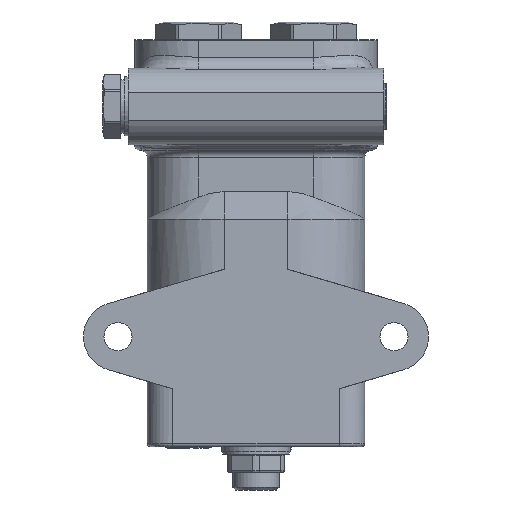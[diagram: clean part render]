
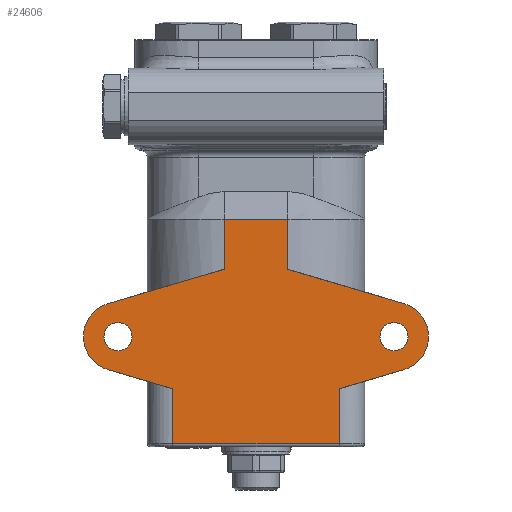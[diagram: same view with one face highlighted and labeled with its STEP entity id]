
A CAD part, front view. The second image highlights one B-rep face of the part: STEP entity #24606.
In plain terms, the highlighted planar face has unit normal (0, -1, 0).
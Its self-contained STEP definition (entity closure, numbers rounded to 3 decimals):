
#4986=CARTESIAN_POINT('',(102.0,0.,32.));
#4987=VERTEX_POINT('',#4986);
#4988=CARTESIAN_POINT('',(96.5,0.0,32.));
#4989=DIRECTION('',(0.0,1.0,0.0));
#4990=DIRECTION('',(-1.0,0.0,0.0));
#4991=AXIS2_PLACEMENT_3D('',#4988,#4989,#4990);
#4992=CIRCLE('',#4991,5.5);
#4993=EDGE_CURVE('',#4987,#4987,#4992,.T.);
#5054=CARTESIAN_POINT('',(-6.,0.,32.));
#5055=VERTEX_POINT('',#5054);
#5056=CARTESIAN_POINT('',(-11.5,0.0,32.));
#5057=DIRECTION('',(0.0,1.0,0.0));
#5058=DIRECTION('',(-1.0,0.0,0.0));
#5059=AXIS2_PLACEMENT_3D('',#5056,#5057,#5058);
#5060=CIRCLE('',#5059,5.5);
#5061=EDGE_CURVE('',#5055,#5055,#5060,.T.);
#5131=CARTESIAN_POINT('',(-15.319,0.,44.949));
#5132=VERTEX_POINT('',#5131);
#5133=CARTESIAN_POINT('',(30.,0.,58.314));
#5134=VERTEX_POINT('',#5133);
#5135=CARTESIAN_POINT('',(-15.319,0.,44.949));
#5136=DIRECTION('',(0.959,0.,0.283));
#5137=VECTOR('',#5136,47.248);
#5138=LINE('',#5135,#5137);
#5139=EDGE_CURVE('',#5132,#5134,#5138,.T.);
#5172=CARTESIAN_POINT('',(55.,0.,58.314));
#5173=VERTEX_POINT('',#5172);
#5174=CARTESIAN_POINT('',(100.319,0.,44.949));
#5175=VERTEX_POINT('',#5174);
#5176=CARTESIAN_POINT('',(55.,0.,58.314));
#5177=DIRECTION('',(0.959,0.,-0.283));
#5178=VECTOR('',#5177,47.248);
#5179=LINE('',#5176,#5178);
#5180=EDGE_CURVE('',#5173,#5175,#5179,.T.);
#5213=CARTESIAN_POINT('',(100.319,0.,19.051));
#5214=VERTEX_POINT('',#5213);
#5215=CARTESIAN_POINT('',(96.5,0.,32.));
#5216=DIRECTION('',(0.,1.0,0.));
#5217=DIRECTION('',(-0.283,0.,0.959));
#5218=AXIS2_PLACEMENT_3D('',#5215,#5216,#5217);
#5219=CIRCLE('',#5218,13.5);
#5220=EDGE_CURVE('',#5175,#5214,#5219,.T.);
#5423=CARTESIAN_POINT('',(30.05,0.,78.0));
#5424=VERTEX_POINT('',#5423);
#5438=CARTESIAN_POINT('',(54.95,0.,78.0));
#5439=VERTEX_POINT('',#5438);
#5440=CARTESIAN_POINT('',(54.95,0.,78.0));
#5441=DIRECTION('',(-1.0,0.0,0.0));
#5442=VECTOR('',#5441,24.9);
#5443=LINE('',#5440,#5442);
#5444=EDGE_CURVE('',#5439,#5424,#5443,.T.);
#5644=CARTESIAN_POINT('',(55.,0.,78.0));
#5645=VERTEX_POINT('',#5644);
#5646=CARTESIAN_POINT('',(55.,0.,78.0));
#5647=DIRECTION('',(-1.0,0.0,0.0));
#5648=VECTOR('',#5647,0.05);
#5649=LINE('',#5646,#5648);
#5650=EDGE_CURVE('',#5645,#5439,#5649,.T.);
#5807=CARTESIAN_POINT('',(30.,0.,78.0));
#5808=VERTEX_POINT('',#5807);
#5816=CARTESIAN_POINT('',(30.,30.,78.0));
#5817=DIRECTION('',(0.0,0.0,-1.0));
#5818=DIRECTION('',(-1.0,0.0,0.0));
#5819=AXIS2_PLACEMENT_3D('',#5816,#5817,#5818);
#5820=CIRCLE('',#5819,30.);
#5821=EDGE_CURVE('',#5424,#5808,#5820,.T.);
#8195=CARTESIAN_POINT('',(-15.319,0.,19.051));
#8196=VERTEX_POINT('',#8195);
#8197=CARTESIAN_POINT('',(-11.5,0.,32.));
#8198=DIRECTION('',(0.,1.0,0.));
#8199=DIRECTION('',(0.283,0.,-0.959));
#8200=AXIS2_PLACEMENT_3D('',#8197,#8198,#8199);
#8201=CIRCLE('',#8200,13.5);
#8202=EDGE_CURVE('',#8196,#5132,#8201,.T.);
#8220=CARTESIAN_POINT('',(10.,0.,11.585));
#8221=VERTEX_POINT('',#8220);
#8222=CARTESIAN_POINT('',(10.,0.,11.585));
#8223=DIRECTION('',(-0.959,0.,0.283));
#8224=VECTOR('',#8223,26.397);
#8225=LINE('',#8222,#8224);
#8226=EDGE_CURVE('',#8221,#8196,#8225,.T.);
#8253=CARTESIAN_POINT('',(75.,0.,11.585));
#8254=VERTEX_POINT('',#8253);
#8255=CARTESIAN_POINT('',(100.319,0.,19.051));
#8256=DIRECTION('',(-0.959,0.,-0.283));
#8257=VECTOR('',#8256,26.397);
#8258=LINE('',#8255,#8257);
#8259=EDGE_CURVE('',#5214,#8254,#8258,.T.);
#8367=CARTESIAN_POINT('',(55.,0.,58.314));
#8368=DIRECTION('',(0.0,0.0,1.0));
#8369=VECTOR('',#8368,19.686);
#8370=LINE('',#8367,#8369);
#8371=EDGE_CURVE('',#5173,#5645,#8370,.T.);
#8384=CARTESIAN_POINT('',(30.,0.,58.314));
#8385=DIRECTION('',(0.0,0.0,1.0));
#8386=VECTOR('',#8385,19.686);
#8387=LINE('',#8384,#8386);
#8388=EDGE_CURVE('',#5134,#5808,#8387,.T.);
#24548=CARTESIAN_POINT('',(10.,0.,-10.));
#24549=VERTEX_POINT('',#24548);
#24557=CARTESIAN_POINT('',(10.,0.,-10.));
#24558=DIRECTION('',(0.0,0.0,1.0));
#24559=VECTOR('',#24558,21.585);
#24560=LINE('',#24557,#24559);
#24561=EDGE_CURVE('',#24549,#8221,#24560,.T.);
#24567=CARTESIAN_POINT('',(75.,0.,-1.));
#24568=DIRECTION('',(0.0,-1.0,0.0));
#24569=DIRECTION('',(0.0,0.0,-1.0));
#24570=AXIS2_PLACEMENT_3D('',#24567,#24568,#24569);
#24571=PLANE('',#24570);
#24572=ORIENTED_EDGE('',*,*,#24561,.F.);
#24573=CARTESIAN_POINT('',(75.,0.,-10.));
#24574=VERTEX_POINT('',#24573);
#24575=CARTESIAN_POINT('',(75.,0.,-10.));
#24576=DIRECTION('',(-1.0,0.0,0.0));
#24577=VECTOR('',#24576,65.0);
#24578=LINE('',#24575,#24577);
#24579=EDGE_CURVE('',#24574,#24549,#24578,.T.);
#24580=ORIENTED_EDGE('',*,*,#24579,.F.);
#24581=CARTESIAN_POINT('',(75.,0.,-10.));
#24582=DIRECTION('',(0.0,0.0,1.0));
#24583=VECTOR('',#24582,21.585);
#24584=LINE('',#24581,#24583);
#24585=EDGE_CURVE('',#24574,#8254,#24584,.T.);
#24586=ORIENTED_EDGE('',*,*,#24585,.T.);
#24587=ORIENTED_EDGE('',*,*,#8259,.F.);
#24588=ORIENTED_EDGE('',*,*,#5220,.F.);
#24589=ORIENTED_EDGE('',*,*,#5180,.F.);
#24590=ORIENTED_EDGE('',*,*,#8371,.T.);
#24591=ORIENTED_EDGE('',*,*,#5650,.T.);
#24592=ORIENTED_EDGE('',*,*,#5444,.T.);
#24593=ORIENTED_EDGE('',*,*,#5821,.T.);
#24594=ORIENTED_EDGE('',*,*,#8388,.F.);
#24595=ORIENTED_EDGE('',*,*,#5139,.F.);
#24596=ORIENTED_EDGE('',*,*,#8202,.F.);
#24597=ORIENTED_EDGE('',*,*,#8226,.F.);
#24598=EDGE_LOOP('',(#24572,#24580,#24586,#24587,#24588,#24589,#24590,#24591,#24592,#24593,#24594,#24595,#24596,#24597));
#24599=FACE_OUTER_BOUND('',#24598,.T.);
#24600=ORIENTED_EDGE('',*,*,#5061,.T.);
#24601=EDGE_LOOP('',(#24600));
#24602=FACE_BOUND('',#24601,.T.);
#24603=ORIENTED_EDGE('',*,*,#4993,.T.);
#24604=EDGE_LOOP('',(#24603));
#24605=FACE_BOUND('',#24604,.T.);
#24606=ADVANCED_FACE('',(#24599,#24602,#24605),#24571,.T.);
